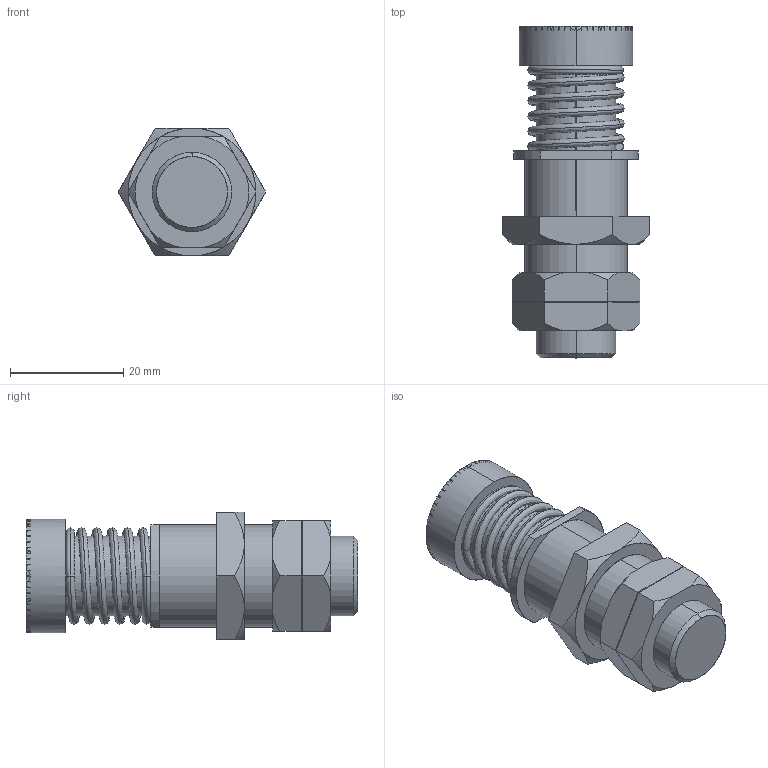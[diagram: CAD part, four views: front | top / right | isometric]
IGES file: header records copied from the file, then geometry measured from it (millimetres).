
Start section: SolidWorks IGES file using analytic representation for surfaces
Global section: file name: \\CODA-VM-SBS\RedirectedFolders\georged\My Documents\CODA FILES NEW\SPECIALIST TEST PRODUCTS\ULTRA HIGH CURRENT TEST PROBES\HD-PA11\HD-PA11HS.IGS; native system: SolidWorks 2022; preprocessor: SolidWorks 2022; author: GeorgeD; date: 240125.111136; units: millimetre
Bounding box: 26 x 58.5 x 22.52 mm (x, y, z)
Surface area: 10767.2 mm2 (no closed solid volume)
Topology: 0 solids, 0 shells, 1732 faces, 7880 edges, 7880 vertices
Faces by surface type: bspline 1700, revolution 32
